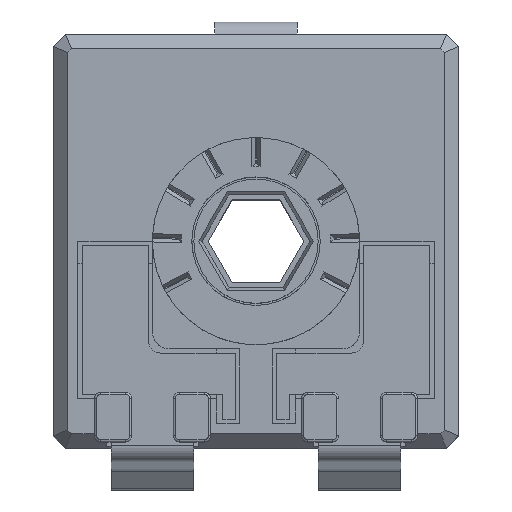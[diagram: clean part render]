
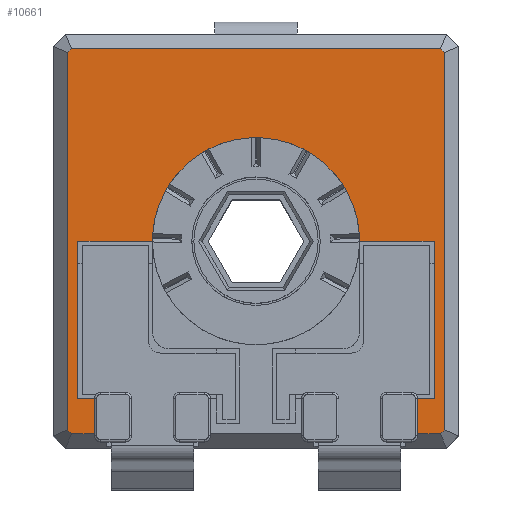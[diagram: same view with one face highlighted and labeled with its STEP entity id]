
A CAD part, top view. The second image highlights one B-rep face of the part: STEP entity #10661.
In plain terms, the highlighted planar face has unit normal (0, 0, 1).
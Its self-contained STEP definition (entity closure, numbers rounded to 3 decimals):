
#320=CIRCLE('',#11377,2.5);
#555=PLANE('',#11376);
#1063=FACE_OUTER_BOUND('',#1617,.T.);
#1617=EDGE_LOOP('',(#8161,#8162,#8163,#8164,#8165,#8166,#8167,#8168,#8169,
#8170,#8171,#8172,#8173,#8174,#8175,#8176,#8177,#8178));
#2351=LINE('',#15882,#3608);
#2404=LINE('',#16098,#3661);
#2459=LINE('',#16218,#3716);
#2481=LINE('',#16262,#3738);
#2482=LINE('',#16264,#3739);
#2483=LINE('',#16266,#3740);
#2484=LINE('',#16268,#3741);
#2485=LINE('',#16270,#3742);
#2486=LINE('',#16272,#3743);
#2487=LINE('',#16274,#3744);
#2488=LINE('',#16276,#3745);
#2489=LINE('',#16277,#3746);
#2490=LINE('',#16279,#3747);
#2491=LINE('',#16281,#3748);
#2492=LINE('',#16283,#3749);
#2493=LINE('',#16287,#3750);
#2494=LINE('',#16288,#3751);
#3608=VECTOR('',#12649,10.);
#3661=VECTOR('',#12896,10.);
#3716=VECTOR('',#13011,10.);
#3738=VECTOR('',#13047,10.);
#3739=VECTOR('',#13048,10.);
#3740=VECTOR('',#13049,10.);
#3741=VECTOR('',#13050,10.);
#3742=VECTOR('',#13051,10.);
#3743=VECTOR('',#13052,10.);
#3744=VECTOR('',#13053,10.);
#3745=VECTOR('',#13054,10.);
#3746=VECTOR('',#13055,10.);
#3747=VECTOR('',#13056,10.);
#3748=VECTOR('',#13057,10.);
#3749=VECTOR('',#13058,10.);
#3750=VECTOR('',#13061,10.);
#3751=VECTOR('',#13062,10.);
#4863=VERTEX_POINT('',#15879);
#4864=VERTEX_POINT('',#15881);
#4929=VERTEX_POINT('',#16095);
#4930=VERTEX_POINT('',#16097);
#4965=VERTEX_POINT('',#16217);
#4980=VERTEX_POINT('',#16261);
#4981=VERTEX_POINT('',#16263);
#4982=VERTEX_POINT('',#16265);
#4983=VERTEX_POINT('',#16267);
#4984=VERTEX_POINT('',#16269);
#4985=VERTEX_POINT('',#16271);
#4986=VERTEX_POINT('',#16273);
#4987=VERTEX_POINT('',#16275);
#4988=VERTEX_POINT('',#16278);
#4989=VERTEX_POINT('',#16280);
#4990=VERTEX_POINT('',#16282);
#4991=VERTEX_POINT('',#16284);
#4992=VERTEX_POINT('',#16286);
#5980=EDGE_CURVE('',#4864,#4863,#2351,.T.);
#6088=EDGE_CURVE('',#4930,#4929,#2404,.T.);
#6150=EDGE_CURVE('',#4965,#4864,#2459,.T.);
#6173=EDGE_CURVE('',#4980,#4863,#2481,.T.);
#6174=EDGE_CURVE('',#4981,#4980,#2482,.T.);
#6175=EDGE_CURVE('',#4982,#4981,#2483,.T.);
#6176=EDGE_CURVE('',#4983,#4982,#2484,.T.);
#6177=EDGE_CURVE('',#4984,#4983,#2485,.T.);
#6178=EDGE_CURVE('',#4985,#4984,#2486,.T.);
#6179=EDGE_CURVE('',#4986,#4985,#2487,.T.);
#6180=EDGE_CURVE('',#4987,#4986,#2488,.T.);
#6181=EDGE_CURVE('',#4930,#4987,#2489,.T.);
#6182=EDGE_CURVE('',#4929,#4988,#2490,.T.);
#6183=EDGE_CURVE('',#4988,#4989,#2491,.T.);
#6184=EDGE_CURVE('',#4989,#4990,#2492,.T.);
#6185=EDGE_CURVE('',#4990,#4991,#320,.T.);
#6186=EDGE_CURVE('',#4991,#4992,#2493,.T.);
#6187=EDGE_CURVE('',#4992,#4965,#2494,.T.);
#8161=ORIENTED_EDGE('',*,*,#5980,.T.);
#8162=ORIENTED_EDGE('',*,*,#6173,.F.);
#8163=ORIENTED_EDGE('',*,*,#6174,.F.);
#8164=ORIENTED_EDGE('',*,*,#6175,.F.);
#8165=ORIENTED_EDGE('',*,*,#6176,.F.);
#8166=ORIENTED_EDGE('',*,*,#6177,.F.);
#8167=ORIENTED_EDGE('',*,*,#6178,.F.);
#8168=ORIENTED_EDGE('',*,*,#6179,.F.);
#8169=ORIENTED_EDGE('',*,*,#6180,.F.);
#8170=ORIENTED_EDGE('',*,*,#6181,.F.);
#8171=ORIENTED_EDGE('',*,*,#6088,.T.);
#8172=ORIENTED_EDGE('',*,*,#6182,.T.);
#8173=ORIENTED_EDGE('',*,*,#6183,.T.);
#8174=ORIENTED_EDGE('',*,*,#6184,.T.);
#8175=ORIENTED_EDGE('',*,*,#6185,.T.);
#8176=ORIENTED_EDGE('',*,*,#6186,.T.);
#8177=ORIENTED_EDGE('',*,*,#6187,.T.);
#8178=ORIENTED_EDGE('',*,*,#6150,.T.);
#10661=ADVANCED_FACE('',(#1063),#555,.T.);
#11376=AXIS2_PLACEMENT_3D('',#16260,#13045,#13046);
#11377=AXIS2_PLACEMENT_3D('',#16285,#13059,#13060);
#12649=DIRECTION('',(0.,-1.,0.));
#12896=DIRECTION('',(0.,1.,0.));
#13011=DIRECTION('',(-1.,0.,0.));
#13045=DIRECTION('center_axis',(0.,0.,1.));
#13046=DIRECTION('ref_axis',(1.,0.,0.));
#13047=DIRECTION('',(-1.,0.,0.));
#13048=DIRECTION('',(-0.707,-0.707,0.));
#13049=DIRECTION('',(0.,-1.,0.));
#13050=DIRECTION('',(0.707,-0.707,0.));
#13051=DIRECTION('',(1.,0.,0.));
#13052=DIRECTION('',(0.707,0.707,0.));
#13053=DIRECTION('',(0.,1.,0.));
#13054=DIRECTION('',(-0.707,0.707,0.));
#13055=DIRECTION('',(-1.,0.,0.));
#13056=DIRECTION('',(-1.,0.,0.));
#13057=DIRECTION('',(0.,1.,0.));
#13058=DIRECTION('',(1.,0.,0.));
#13059=DIRECTION('center_axis',(0.,0.,-1.));
#13060=DIRECTION('ref_axis',(-1.,0.,0.));
#13061=DIRECTION('',(1.,0.,0.));
#13062=DIRECTION('',(0.,-1.,0.));
#15879=CARTESIAN_POINT('',(-22.548,-17.64,0.));
#15881=CARTESIAN_POINT('',(-22.548,-16.79,0.));
#15882=CARTESIAN_POINT('',(-22.548,-15.415,0.));
#16095=CARTESIAN_POINT('',(-30.348,-16.79,0.));
#16097=CARTESIAN_POINT('',(-30.348,-17.64,0.));
#16098=CARTESIAN_POINT('',(-30.348,-14.815,0.));
#16217=CARTESIAN_POINT('',(-22.148,-16.79,0.));
#16218=CARTESIAN_POINT('',(-24.648,-16.79,0.));
#16260=CARTESIAN_POINT('Origin',(-26.448,-12.99,0.));
#16261=CARTESIAN_POINT('',(-21.993,-17.64,0.));
#16262=CARTESIAN_POINT('',(-28.748,-17.64,0.));
#16263=CARTESIAN_POINT('',(-21.898,-17.545,0.));
#16264=CARTESIAN_POINT('',(-21.995,-17.643,0.));
#16265=CARTESIAN_POINT('',(-21.898,-8.435,0.));
#16266=CARTESIAN_POINT('',(-21.898,-15.34,0.));
#16267=CARTESIAN_POINT('',(-21.993,-8.34,0.));
#16268=CARTESIAN_POINT('',(-21.845,-8.488,0.));
#16269=CARTESIAN_POINT('',(-30.903,-8.34,0.));
#16270=CARTESIAN_POINT('',(-24.148,-8.34,0.));
#16271=CARTESIAN_POINT('',(-30.998,-8.435,0.));
#16272=CARTESIAN_POINT('',(-30.9,-8.338,0.));
#16273=CARTESIAN_POINT('',(-30.998,-17.545,0.));
#16274=CARTESIAN_POINT('',(-30.998,-10.64,0.));
#16275=CARTESIAN_POINT('',(-30.903,-17.64,0.));
#16276=CARTESIAN_POINT('',(-31.05,-17.493,0.));
#16277=CARTESIAN_POINT('',(-28.748,-17.64,0.));
#16278=CARTESIAN_POINT('',(-30.748,-16.79,0.));
#16279=CARTESIAN_POINT('',(-28.598,-16.79,0.));
#16280=CARTESIAN_POINT('',(-30.748,-12.99,0.));
#16281=CARTESIAN_POINT('',(-30.748,-12.99,0.));
#16282=CARTESIAN_POINT('',(-28.948,-12.99,0.));
#16283=CARTESIAN_POINT('',(-27.698,-12.99,0.));
#16284=CARTESIAN_POINT('',(-23.948,-12.99,0.));
#16285=CARTESIAN_POINT('Origin',(-26.448,-12.99,0.));
#16286=CARTESIAN_POINT('',(-22.148,-12.99,0.));
#16287=CARTESIAN_POINT('',(-24.298,-12.99,0.));
#16288=CARTESIAN_POINT('',(-22.148,-14.89,0.));
